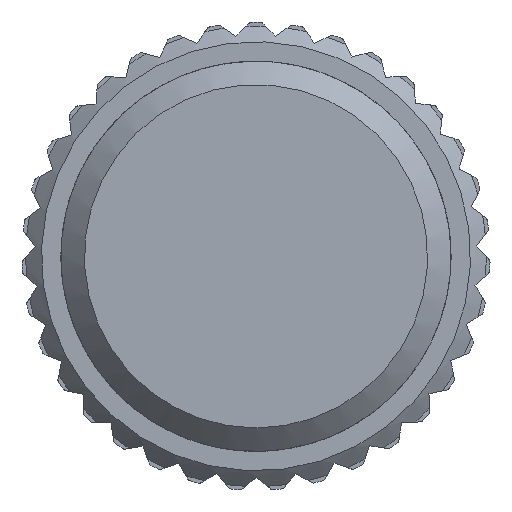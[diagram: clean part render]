
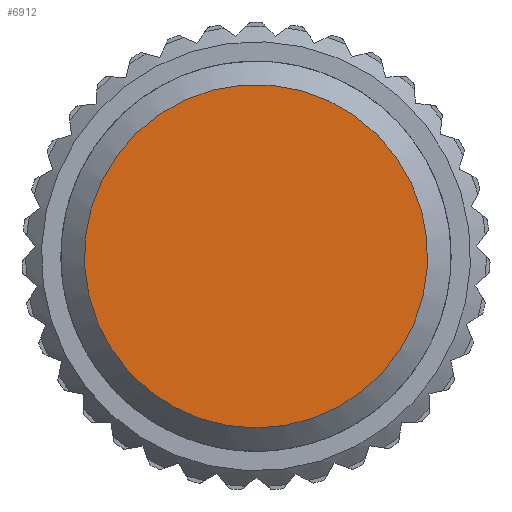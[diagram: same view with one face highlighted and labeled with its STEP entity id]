
A CAD part, left-side view. The second image highlights one B-rep face of the part: STEP entity #6912.
In plain terms, the highlighted planar face has unit normal (-1, 0, 0).
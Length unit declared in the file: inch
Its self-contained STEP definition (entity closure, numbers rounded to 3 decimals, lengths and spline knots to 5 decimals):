
#1287=FACE_OUTER_BOUND($,#1708,.T.);
#1708=EDGE_LOOP($,(#4325));
#2143=CIRCLE($,#7390,0.17323);
#2544=VERTEX_POINT($,#10436);
#3207=EDGE_CURVE($,#2544,#2544,#2143,.T.);
#4325=ORIENTED_EDGE($,*,*,#3207,.F.);
#6190=PLANE($,#7443);
#6912=ADVANCED_FACE($,(#1287),#6190,.F.);
#7390=AXIS2_PLACEMENT_3D($,#10437,#8375,#8376);
#7443=AXIS2_PLACEMENT_3D($,#10542,#8481,#8482);
#8375=DIRECTION('center_axis',(1.,0.,0.));
#8376=DIRECTION('ref_axis',(0.,-0.973,0.23));
#8481=DIRECTION('center_axis',(1.,0.,0.));
#8482=DIRECTION('ref_axis',(0.,-0.973,0.23));
#10436=CARTESIAN_POINT('',(1.0399,0.39838,-0.03982));
#10437=CARTESIAN_POINT('Origin',(1.0399,0.22979,0.));
#10542=CARTESIAN_POINT('Origin',(1.0399,0.22979,0.));
